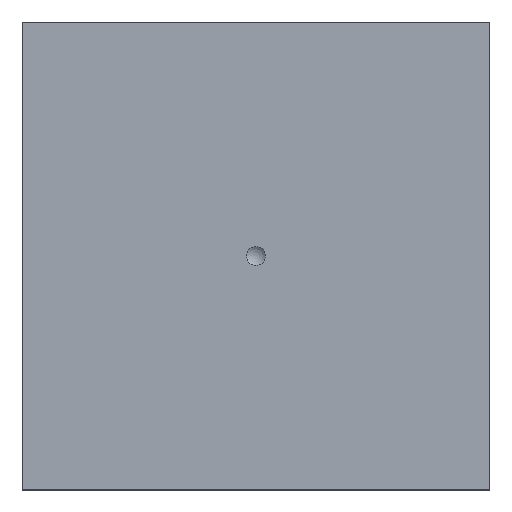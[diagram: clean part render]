
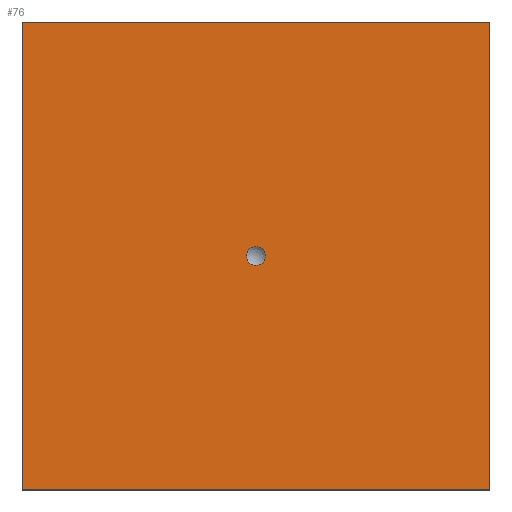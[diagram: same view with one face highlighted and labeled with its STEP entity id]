
A CAD part, top view. The second image highlights one B-rep face of the part: STEP entity #76.
In plain terms, the highlighted planar face has unit normal (0, 0, 1).
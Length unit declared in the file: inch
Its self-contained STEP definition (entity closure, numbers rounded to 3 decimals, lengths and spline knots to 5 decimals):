
#76=ADVANCED_FACE('',(#86,#87),#88,.F.);
#86=FACE_OUTER_BOUND('',#104,.T.);
#87=FACE_BOUND('',#105,.T.);
#88=PLANE('',#106);
#104=EDGE_LOOP('',(#127,#128,#129,#130));
#105=EDGE_LOOP('',(#131));
#106=AXIS2_PLACEMENT_3D('',#132,#133,#134);
#127=ORIENTED_EDGE('',*,*,#176,.T.);
#128=ORIENTED_EDGE('',*,*,#175,.T.);
#129=ORIENTED_EDGE('',*,*,#177,.F.);
#130=ORIENTED_EDGE('',*,*,#178,.F.);
#131=ORIENTED_EDGE('',*,*,#179,.F.);
#132=CARTESIAN_POINT('',(4.09903,0.282,0.297));
#133=DIRECTION('',(0.,0.0,-1.0));
#134=DIRECTION('',(-1.0,0.0,0.));
#175=EDGE_CURVE('',#187,#191,#193,.T.);
#176=EDGE_CURVE('',#194,#187,#195,.T.);
#177=EDGE_CURVE('',#196,#191,#197,.T.);
#178=EDGE_CURVE('',#194,#196,#198,.T.);
#179=EDGE_CURVE('',#199,#199,#200,.T.);
#187=VERTEX_POINT('',#211);
#191=VERTEX_POINT('',#217);
#193=LINE('',#220,#221);
#194=VERTEX_POINT('',#222);
#195=LINE('',#223,#224);
#196=VERTEX_POINT('',#225);
#197=LINE('',#226,#227);
#198=LINE('',#228,#229);
#199=VERTEX_POINT('',#230);
#200=CIRCLE('',#231,0.04062);
#211=CARTESIAN_POINT('',(2.07922,-1.068,0.297));
#217=CARTESIAN_POINT('',(2.07922,0.932,0.297));
#220=CARTESIAN_POINT('',(2.07922,0.307,0.297));
#221=VECTOR('',#249,1.0);
#222=CARTESIAN_POINT('',(0.07922,-1.068,0.297));
#223=CARTESIAN_POINT('',(2.12662,-1.068,0.297));
#224=VECTOR('',#250,0.04508);
#225=CARTESIAN_POINT('',(0.07922,0.932,0.297));
#226=CARTESIAN_POINT('',(2.12662,0.932,0.297));
#227=VECTOR('',#251,0.04508);
#228=CARTESIAN_POINT('',(0.07922,-0.043,0.297));
#229=VECTOR('',#252,0.65);
#230=CARTESIAN_POINT('',(1.07922,-0.10862,0.297));
#231=AXIS2_PLACEMENT_3D('',#253,#254,#255);
#249=DIRECTION('',(0.0,1.0,0.0));
#250=DIRECTION('',(1.0,0.0,0.));
#251=DIRECTION('',(1.0,0.0,0.));
#252=DIRECTION('',(0.0,1.0,0.0));
#253=CARTESIAN_POINT('',(1.07922,-0.068,0.297));
#254=DIRECTION('',(0.,0.0,1.0));
#255=DIRECTION('',(-0.0,-1.0,0.0));
